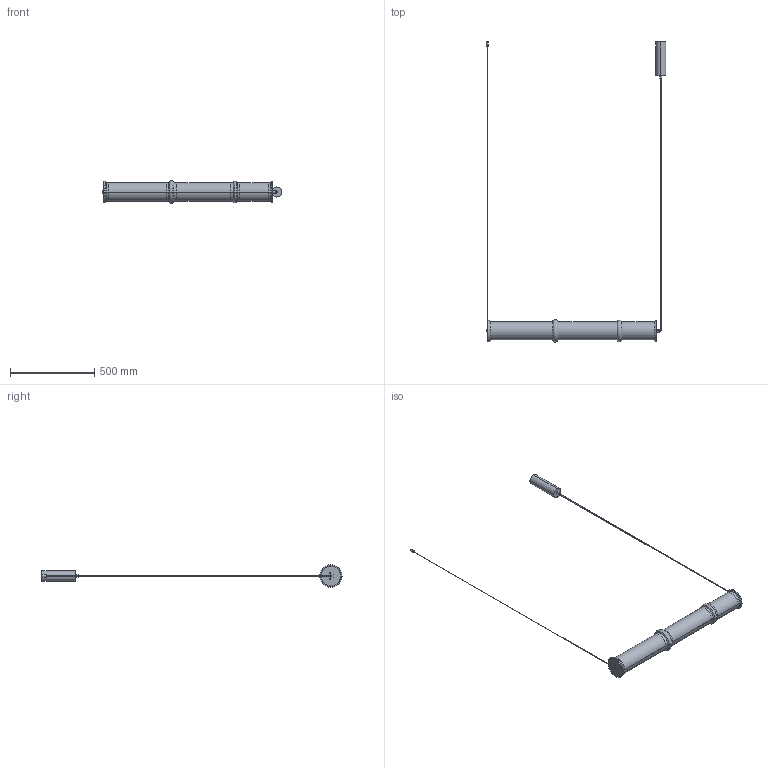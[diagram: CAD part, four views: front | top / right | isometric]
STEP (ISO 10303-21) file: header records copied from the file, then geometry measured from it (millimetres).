
FILE_DESCRIPTION (( 'STEP AP214' ), '1' );
FILE_NAME ('C1319.STEP', '2023-07-20T09:47:03', ( '' ), ( '' ), 'SwSTEP 2.0', 'SolidWorks 2018', '' );
FILE_SCHEMA (( 'AUTOMOTIVE_DESIGN' ));
Length unit declared in the file: millimetre
Products named in the file (1): C1319
Bounding box: 1066.12 x 1781.5 x 133 mm (x, y, z)
Volume: 1974673.4 mm3; surface area: 801173.8 mm2
Topology: 10 solids, 10 shells, 114 faces, 244 edges, 150 vertices
Faces by surface type: cylinder 58, torus 30, plane 26
Entity records: 3369 total; most frequent: DIRECTION 634, CARTESIAN_POINT 599, ORIENTED_EDGE 488, AXIS2_PLACEMENT_3D 283, EDGE_CURVE 244, CIRCLE 168, VERTEX_POINT 150, EDGE_LOOP 138
